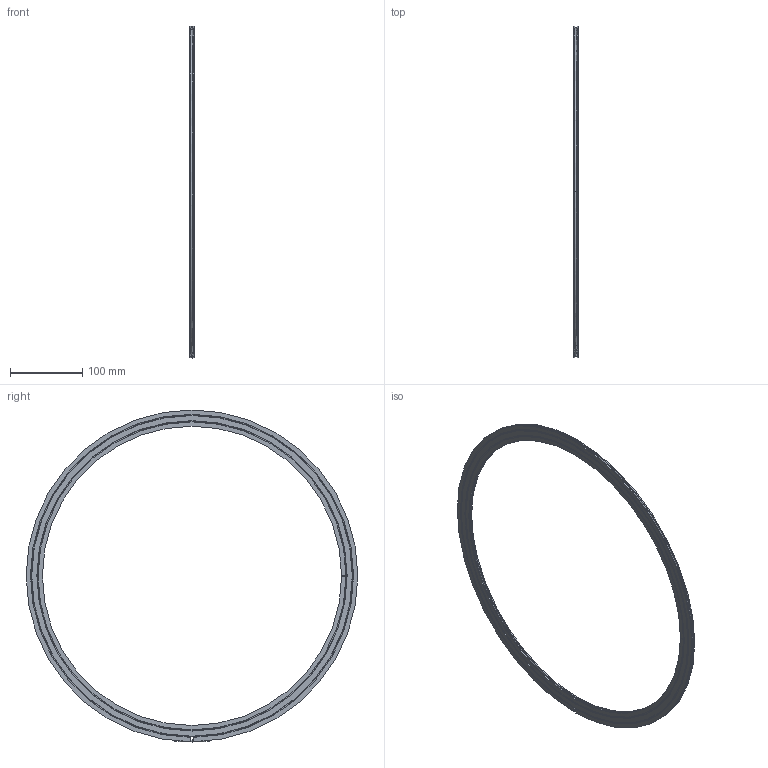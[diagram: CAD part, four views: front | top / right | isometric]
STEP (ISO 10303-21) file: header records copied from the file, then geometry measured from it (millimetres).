
FILE_DESCRIPTION((''),'2;1');
FILE_NAME('W:\212-327.stp','2004-01-08T16:28:45',('KAA'),(''),'Autodesk Inventor (R) 6.0','Autodesk Inventor (R) 6.0','');
FILE_SCHEMA(('CONFIG_CONTROL_DESIGN'));
Length unit declared in the file: millimetre
Products named in the file (1): 212-327
Bounding box: 5.6 x 460 x 460.4 mm (x, y, z)
Volume: 152279.3 mm3; surface area: 92330.2 mm2
Topology: 2 solids, 2 shells, 64 faces, 187 edges, 127 vertices
Faces by surface type: cylinder 24, plane 20, torus 12, bspline 8
Entity records: 2917 total; most frequent: CARTESIAN_POINT 1011, DIRECTION 412, ORIENTED_EDGE 390, EDGE_CURVE 195, AXIS2_PLACEMENT_3D 176, VERTEX_POINT 127, CIRCLE 119, EDGE_LOOP 66
